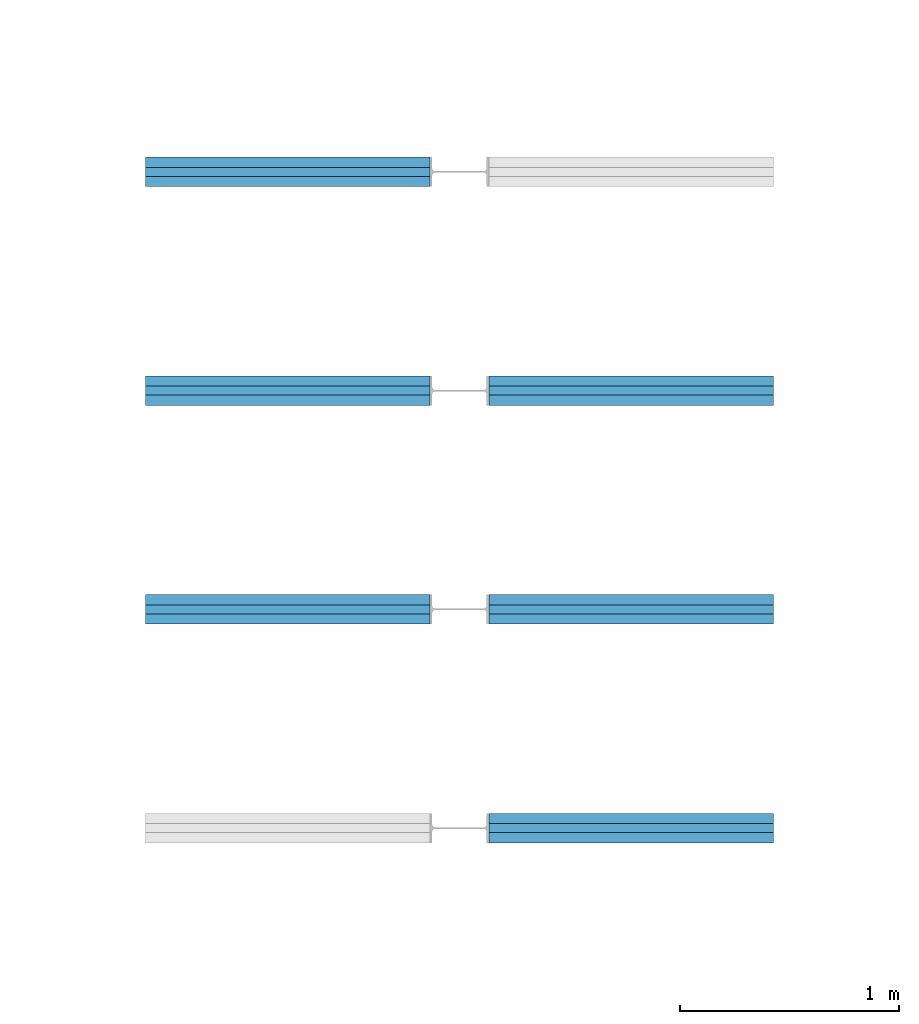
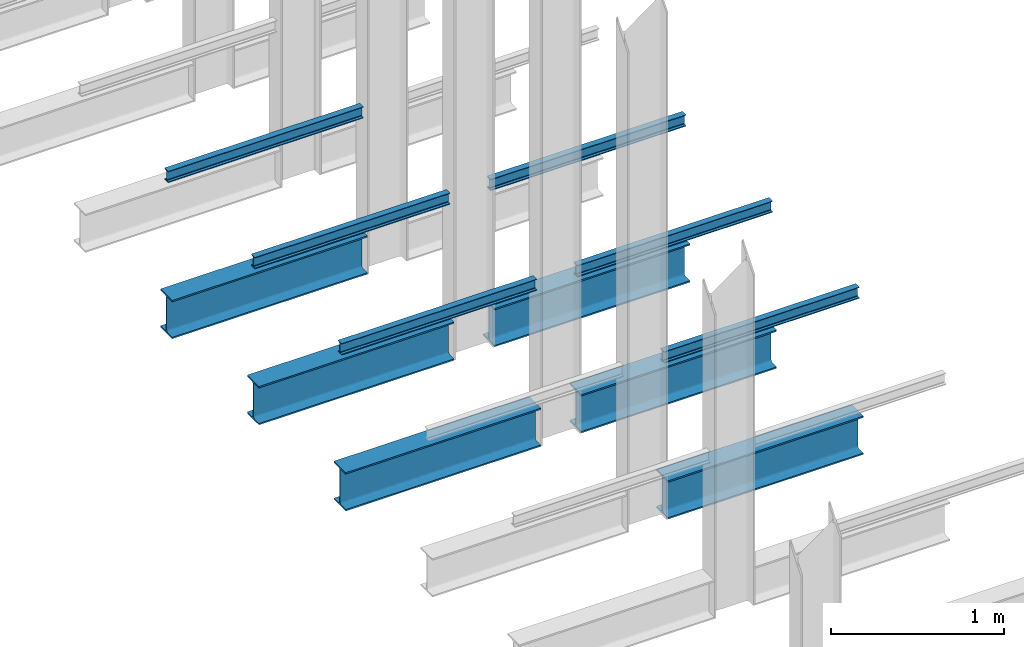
# One storey, part 162 of 302: 12 beams.
"""IFC2X3 building model written with IfcOpenShell, lengths in metres."""

import ifcopenshell
import ifcopenshell.guid

model = None  # the IFC model being written
_history = None  # IfcOwnerHistory: only IFC2X3 demands one
_inside = {}  # id of a spatial element -> (the spatial element, [elements in it])
_under = {}  # id of a project, library or spatial element -> (it, [spatial elements below it])
_declared = {}  # id of a project -> (the project, [libraries it declares])
_typed = {}  # id of a type object -> (the type object, [elements of that type])
_made_of = {}  # id of a material, layer set ... -> (it, [elements and type objects made of it])


def new_model(schema):
    """Start an empty IFC model of exactly this schema.

    Asked for "IFC4X3", IfcOpenShell would pick the latest addendum, in which some entities
    have other attributes; the version numbers below select the first issue.
    IFC2X3 requires an IfcOwnerHistory on every rooted entity: one is made here for all.
    """
    global model, _history
    if schema == "IFC4X3":
        model = ifcopenshell.file(schema_version=(4, 3, 0, 0))
    else:
        model = ifcopenshell.file(schema=schema)
    _inside.clear()
    _under.clear()
    _declared.clear()
    _typed.clear()
    _made_of.clear()
    _history = None
    if model.schema == "IFC2X3":
        org = make("IfcOrganization", Name="unknown")
        user = make(
            "IfcPersonAndOrganization",
            ThePerson=make("IfcPerson", FamilyName="unknown"),
            TheOrganization=org,
        )
        app = make(
            "IfcApplication",
            ApplicationDeveloper=org,
            Version="unknown",
            ApplicationFullName="unknown",
            ApplicationIdentifier="unknown",
        )
        _history = make(
            "IfcOwnerHistory",
            OwningUser=user,
            OwningApplication=app,
            ChangeAction="ADDED",
            CreationDate=0,
        )
    return model


def make(cls, **values):
    """One entity of the class cls with the attributes given. An attribute that is None is left unset."""
    return model.create_entity(
        cls, **{name: value for name, value in values.items() if value is not None}
    )


def entity(cls, *values):
    """Any entity or typed value of the class cls, its attributes in the order of the schema. None: left unset."""
    e = model.create_entity(cls)
    for i, value in enumerate(values):
        if value is not None:
            e[i] = value
    return e


def rooted(cls, **values):
    """An entity with a GlobalId (a new one), such as an element, a storey or a relation."""
    return make(cls, GlobalId=ifcopenshell.guid.new(), OwnerHistory=_history, **values)


def si_unit(unit_type, name, prefix=None):
    """IfcSIUnit, for example si_unit("LENGTHUNIT", "METRE", prefix="MILLI")."""
    return make("IfcSIUnit", UnitType=unit_type, Prefix=prefix, Name=name)


def converted_unit(unit_type, name, factor, base, dimensions=None, offset=None):
    """IfcConversionBasedUnit, such as the inch: factor (a typed value) times the base unit."""
    return make(
        "IfcConversionBasedUnit"
        if offset is None
        else "IfcConversionBasedUnitWithOffset",
        ConversionOffset=offset,
        Dimensions=None
        if dimensions is None
        else entity("IfcDimensionalExponents", *dimensions),
        UnitType=unit_type,
        Name=name,
        ConversionFactor=make(
            "IfcMeasureWithUnit", ValueComponent=factor, UnitComponent=base
        ),
    )


def derived_unit(unit_type, elements):
    """IfcDerivedUnit: a product of units, each with its exponent."""
    return make(
        "IfcDerivedUnit",
        Elements=[
            make("IfcDerivedUnitElement", Unit=unit, Exponent=power)
            for unit, power in elements
        ],
        UnitType=unit_type,
    )


def assignment(units):
    """IfcUnitAssignment: the units of a project."""
    return None if units is None else make("IfcUnitAssignment", Units=units)


def point(xyz):
    """IfcCartesianPoint."""
    return None if xyz is None else make("IfcCartesianPoint", Coordinates=xyz)


def direction(xyz):
    """IfcDirection."""
    return None if xyz is None else make("IfcDirection", DirectionRatios=xyz)


def frame(location, z_axis=None, x_axis=None):
    """IfcAxis2Placement3D, a coordinate frame: its origin and axes. An axis left out is left unset."""
    return make(
        "IfcAxis2Placement3D",
        Location=point(location),
        Axis=direction(z_axis),
        RefDirection=direction(x_axis),
    )


def frame_2d(location, x_axis=None):
    """IfcAxis2Placement2D, a coordinate frame in the plane: its origin and x axis."""
    return make(
        "IfcAxis2Placement2D", Location=point(location), RefDirection=direction(x_axis)
    )


def origin():
    """The frame at (0, 0, 0) with its axes left unset."""
    return frame((0.0, 0.0, 0.0))


def place(relative_to, where):
    """IfcLocalPlacement: puts the frame where relative to a parent placement (None: the world)."""
    return make(
        "IfcLocalPlacement", PlacementRelTo=relative_to, RelativePlacement=where
    )


def context(
    kind, dimensions, precision=None, world=None, true_north=None, identifier=None
):
    """IfcGeometricRepresentationContext, for example the 3D "Model" context."""
    return make(
        "IfcGeometricRepresentationContext",
        ContextIdentifier=identifier,
        ContextType=kind,
        CoordinateSpaceDimension=dimensions,
        Precision=precision,
        WorldCoordinateSystem=world,
        TrueNorth=true_north,
    )


def subcontext(parent, identifier, kind, view, scale=None):
    """IfcGeometricRepresentationSubContext, for example "Body" below "Model"."""
    return make(
        "IfcGeometricRepresentationSubContext",
        ContextIdentifier=identifier,
        ContextType=kind,
        ParentContext=parent,
        TargetScale=scale,
        TargetView=view,
    )


def project(units=None, contexts=None):
    """IfcProject with its units and contexts."""
    return rooted(
        "IfcProject",
        Name="project",
        RepresentationContexts=contexts,
        UnitsInContext=assignment(units),
    )


def spatial(cls, under=None, at=None, **own):
    """A site, building, storey or space (cls), placed at a placement, below another one or the project."""
    s = rooted(cls, ObjectPlacement=at, **own)
    if under is not None:
        _under.setdefault(under.id(), (under, []))[1].append(s)
    return s


def polyline(points):
    """IfcPolyline through the points."""
    return make("IfcPolyline", Points=[point(p) for p in points])


def circle_curve(where, radius):
    """IfcCircle in the frame where."""
    return make("IfcCircle", Position=where, Radius=radius)


def parameter(value):
    """IfcParameterValue: where a trimmed curve begins or ends, as a parameter of its basis curve."""
    return model.create_entity("IfcParameterValue", value)


def trimmed(basis, trim1, trim2, sense, master):
    """IfcTrimmedCurve: the piece of a basis curve between two trims."""
    return make(
        "IfcTrimmedCurve",
        BasisCurve=basis,
        Trim1=trim1,
        Trim2=trim2,
        SenseAgreement=sense,
        MasterRepresentation=master,
    )


def segment(curve, same_sense, transition):
    """IfcCompositeCurveSegment."""
    return make(
        "IfcCompositeCurveSegment",
        Transition=transition,
        SameSense=same_sense,
        ParentCurve=curve,
    )


def composite_curve(segments, self_intersect=None):
    """IfcCompositeCurve: segments joined end to end."""
    return make("IfcCompositeCurve", Segments=segments, SelfIntersect=self_intersect)


def profile(cls, at=None, kind="AREA", **sizes):
    """A parametric profile (cls). Its sizes go by their IFC names, for example OverallWidth=200.0."""
    return make(cls, ProfileType=kind, Position=at, **sizes)


def i_section(**sizes):
    """IfcIShapeProfileDef."""
    return profile("IfcIShapeProfileDef", **sizes)


def outline(outer, holes=None, kind="AREA"):
    """IfcArbitraryClosedProfileDef: a profile drawn as a closed curve; with holes, ...WithVoids."""
    if holes is None:
        return make("IfcArbitraryClosedProfileDef", ProfileType=kind, OuterCurve=outer)
    return make(
        "IfcArbitraryProfileDefWithVoids",
        ProfileType=kind,
        OuterCurve=outer,
        InnerCurves=holes,
    )


def extrude(swept, where, along, depth):
    """IfcExtrudedAreaSolid: the profile swept, set in the frame where, extruded along a direction by depth."""
    return make(
        "IfcExtrudedAreaSolid",
        SweptArea=swept,
        Position=where,
        ExtrudedDirection=direction(along),
        Depth=depth,
    )


def shape(context_of_items, identifier, shape_type, items):
    """IfcShapeRepresentation: the items that make up one representation, for example the "Body"."""
    return make(
        "IfcShapeRepresentation",
        ContextOfItems=context_of_items,
        RepresentationIdentifier=identifier,
        RepresentationType=shape_type,
        Items=items,
    )


def material(Name=None, Category=None):
    """IfcMaterial."""
    return make("IfcMaterial", Name=Name, Category=Category)


def made_of(thing, what):
    """Note that an element or type object is made of a material, layer set ...; save() writes the relation."""
    if what is not None:
        _made_of.setdefault(what.id(), (what, []))[1].append(thing)
    return thing


def type_object(cls, material=None, **own):
    """A type object (cls), such as IfcWallType, which elements share."""
    return made_of(rooted(cls, **own), material)


def element(
    cls,
    number,
    at=None,
    inside=None,
    cuts=None,
    type_object=None,
    material=None,
    context=None,
    identifier="Body",
    shape_type=None,
    held_by="IfcProductDefinitionShape",
    body=None,
    shapes=None,
    **own,
):
    """One element of the class cls, such as IfcWall. Its Tag is "e" and its number.

    at: its placement. inside: the storey or other place that contains it. cuts: it is an
    opening in that element (IfcRelVoidsElement). A single representation is given by context,
    identifier, shape_type and body (its items); several are given by shapes. held_by: the class
    of the entity that holds the representations. save() writes the other relations.
    """
    e = rooted(cls, Tag="e%d" % number, ObjectPlacement=at, **own)
    if body is not None:
        shapes = [shape(context, identifier, shape_type, body)]
    if shapes is not None:
        e.Representation = make(held_by, Representations=shapes)
    if inside is not None:
        _inside.setdefault(inside.id(), (inside, []))[1].append(e)
    if cuts is not None:
        rooted(
            "IfcRelVoidsElement", RelatingBuildingElement=cuts, RelatedOpeningElement=e
        )
    if type_object is not None:
        _typed.setdefault(type_object.id(), (type_object, []))[1].append(e)
    return made_of(e, material)


def aggregate(whole, parts):
    """IfcRelAggregates: a whole, such as a stair, and the parts it consists of."""
    return rooted("IfcRelAggregates", RelatingObject=whole, RelatedObjects=parts)


def save(model, path):
    """Write the relations noted so far, then the file.

    IfcRelAggregates (storeys below a building ...), IfcRelContainedInSpatialStructure (elements
    in a storey), IfcRelDefinesByType, IfcRelAssociatesMaterial and IfcRelDeclares: one each for
    every whole, place, type object, material and project.
    """
    for whole, parts in _under.values():
        aggregate(whole, parts)
    for where, things in _inside.values():
        rooted(
            "IfcRelContainedInSpatialStructure",
            RelatedElements=things,
            RelatingStructure=where,
        )
    for kind, things in _typed.values():
        rooted("IfcRelDefinesByType", RelatedObjects=things, RelatingType=kind)
    for what, things in _made_of.values():
        rooted("IfcRelAssociatesMaterial", RelatedObjects=things, RelatingMaterial=what)
    for by, libraries in _declared.values():
        rooted("IfcRelDeclares", RelatingContext=by, RelatedDefinitions=libraries)
    model.write(path)


model = new_model("IFC2X3")

# Units and contexts
model_context = context("Model", 3, precision=1e-05, world=origin(), true_north=direction((6.12303176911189e-17, 1.0)))
body_context = subcontext(model_context, "Body", "Model", "MODEL_VIEW")
ifc_project = project(units=[si_unit("LENGTHUNIT", "METRE"), si_unit("AREAUNIT", "SQUARE_METRE"), si_unit("VOLUMEUNIT", "CUBIC_METRE"), converted_unit("PLANEANGLEUNIT", "DEGREE", entity("IfcRatioMeasure", 0.0174532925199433), si_unit("PLANEANGLEUNIT", "RADIAN"), dimensions=[0, 0, 0, 0, 0, 0, 0]), si_unit("MASSUNIT", "GRAM", prefix="KILO"), derived_unit("MASSDENSITYUNIT", [(si_unit("MASSUNIT", "GRAM", prefix="KILO"), 1), (si_unit("LENGTHUNIT", "METRE"), -3)]), derived_unit("MOMENTOFINERTIAUNIT", [(si_unit("LENGTHUNIT", "METRE"), 4)]), si_unit("TIMEUNIT", "SECOND"), si_unit("FREQUENCYUNIT", "HERTZ"), si_unit("THERMODYNAMICTEMPERATUREUNIT", "DEGREE_CELSIUS"), derived_unit("THERMALTRANSMITTANCEUNIT", [(si_unit("MASSUNIT", "GRAM", prefix="KILO"), 1), (si_unit("THERMODYNAMICTEMPERATUREUNIT", "KELVIN"), -1), (si_unit("TIMEUNIT", "SECOND"), -3)]), derived_unit("VOLUMETRICFLOWRATEUNIT", [(si_unit("LENGTHUNIT", "METRE"), 3), (si_unit("TIMEUNIT", "SECOND"), -1)]), si_unit("ELECTRICCURRENTUNIT", "AMPERE"), si_unit("ELECTRICVOLTAGEUNIT", "VOLT"), si_unit("POWERUNIT", "WATT"), si_unit("FORCEUNIT", "NEWTON", prefix="KILO"), si_unit("ILLUMINANCEUNIT", "LUX"), si_unit("LUMINOUSFLUXUNIT", "LUMEN"), si_unit("LUMINOUSINTENSITYUNIT", "CANDELA"), derived_unit("USERDEFINED", [(si_unit("MASSUNIT", "GRAM", prefix="KILO"), -1), (si_unit("LENGTHUNIT", "METRE"), -2), (si_unit("TIMEUNIT", "SECOND"), 3), (si_unit("LUMINOUSFLUXUNIT", "LUMEN"), 1)]), derived_unit("LINEARVELOCITYUNIT", [(si_unit("LENGTHUNIT", "METRE"), 1), (si_unit("TIMEUNIT", "SECOND"), -1)]), si_unit("PRESSUREUNIT", "PASCAL"), derived_unit("USERDEFINED", [(si_unit("LENGTHUNIT", "METRE"), -2), (si_unit("MASSUNIT", "GRAM", prefix="KILO"), 1), (si_unit("TIMEUNIT", "SECOND"), -2)]), derived_unit("LINEARFORCEUNIT", [(si_unit("MASSUNIT", "GRAM", prefix="KILO"), 1), (si_unit("LENGTHUNIT", "METRE"), 1), (si_unit("TIMEUNIT", "SECOND"), -2), (si_unit("LENGTHUNIT", "METRE"), -1)]), derived_unit("PLANARFORCEUNIT", [(si_unit("MASSUNIT", "GRAM", prefix="KILO"), 1), (si_unit("LENGTHUNIT", "METRE"), 1), (si_unit("TIMEUNIT", "SECOND"), -2), (si_unit("LENGTHUNIT", "METRE"), -2)])], contexts=[model_context])

# Site, building, storey
site_placement = place(None, origin())
site = spatial("IfcSite", under=ifc_project, at=site_placement, Name="Default", CompositionType="ELEMENT")
building_placement = place(site_placement, origin())
building = spatial("IfcBuilding", under=site, at=building_placement, CompositionType="ELEMENT")
storey_placement = place(building_placement, frame((0.0, 0.0, -1.3)))
storey = spatial("IfcBuildingStorey", under=building, at=storey_placement, Name="00_EG", CompositionType="ELEMENT", Elevation=-1.3)

# Beams
ifc_material = material(Name="Metall - Baustahl S235")
beam_type_1 = type_object("IfcBeamType", Name="IPN Träger:IPN 80", PredefinedType="NOTDEFINED")
beam_1_placement = place(storey_placement, frame((-164.910111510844, 31.036588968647, 2.42), z_axis=(0.0, 0.0, 1.0), x_axis=(-1.0, 0.0, 0.0)))
element("IfcBeam", 1, at=beam_1_placement, inside=storey, type_object=beam_type_1, material=ifc_material, Name="IPN Träger:IPN 80", ObjectType="IPN Träger:IPN 80", context=body_context, shape_type="SweptSolid", body=[
    extrude(outline(composite_curve([segment(polyline([(0.0375704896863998, -0.0209999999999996), (0.0399999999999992, -0.0209999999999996)]), True, "CONTINUOUS"), segment(polyline([(0.0399999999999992, -0.0209999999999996), (0.0399999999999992, 0.0209999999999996)]), True, "CONTINUOUS"), segment(polyline([(0.039999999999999, 0.0209999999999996), (0.037570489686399, 0.0209999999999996)]), True, "CONTINUOUS"), segment(trimmed(circle_curve(frame_2d((0.037570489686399, 0.0187000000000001), x_axis=(0.0, 1.0)), 0.00230000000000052), [parameter(0.0)], [parameter(82.0299999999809)], True, "PARAMETER"), True, "CONTINUOUS"), segment(polyline([(0.0352927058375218, 0.0190189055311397), (0.0333732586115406, 0.00530924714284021)]), True, "CONTINUOUS"), segment(trimmed(circle_curve(frame_2d((0.0295109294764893, 0.00584999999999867), x_axis=(0.990340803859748, -0.138654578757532)), 0.00389999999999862), [parameter(277.969999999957)], [parameter(0.0)], True, "PARAMETER"), False, "CONTINUOUS"), segment(polyline([(0.0295109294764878, 0.00194999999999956), (-0.0295109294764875, 0.00194999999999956)]), True, "CONTINUOUS"), segment(trimmed(circle_curve(frame_2d((-0.029510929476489, 0.00584999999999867), x_axis=(0.0, -1.0)), 0.00389999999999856), [parameter(277.969999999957)], [parameter(0.0)], True, "PARAMETER"), False, "CONTINUOUS"), segment(polyline([(-0.0333732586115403, 0.00530924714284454), (-0.0352927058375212, 0.019018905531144)]), True, "CONTINUOUS"), segment(trimmed(circle_curve(frame_2d((-0.0375704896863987, 0.0187000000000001), x_axis=(0.990340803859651, 0.138654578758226)), 0.00230000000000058), [parameter(0.0)], [parameter(82.029999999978)], True, "PARAMETER"), True, "CONTINUOUS"), segment(polyline([(-0.0375704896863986, 0.0209999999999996), (-0.0400000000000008, 0.0209999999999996)]), True, "CONTINUOUS"), segment(polyline([(-0.0400000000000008, 0.0209999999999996), (-0.0400000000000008, -0.0209999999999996)]), True, "CONTINUOUS"), segment(polyline([(-0.0400000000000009, -0.0209999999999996), (-0.037570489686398, -0.0209999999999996)]), True, "CONTINUOUS"), segment(trimmed(circle_curve(frame_2d((-0.0375704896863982, -0.0187000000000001), x_axis=(0.0, -1.0)), 0.00230000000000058), [parameter(0.0)], [parameter(82.029999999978)], True, "PARAMETER"), True, "CONTINUOUS"), segment(polyline([(-0.0352927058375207, -0.0190189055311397), (-0.0333732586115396, -0.00530924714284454)]), True, "CONTINUOUS"), segment(trimmed(circle_curve(frame_2d((-0.0295109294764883, -0.00584999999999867), x_axis=(-0.990340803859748, 0.138654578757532)), 0.00389999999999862), [parameter(277.969999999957)], [parameter(0.0)], True, "PARAMETER"), False, "CONTINUOUS"), segment(polyline([(-0.0295109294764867, -0.00194999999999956), (0.0295109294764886, -0.00194999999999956)]), True, "CONTINUOUS"), segment(trimmed(circle_curve(frame_2d((0.0295109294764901, -0.00584999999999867), x_axis=(0.0, 1.0)), 0.00389999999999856), [parameter(277.969999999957)], [parameter(0.0)], True, "PARAMETER"), False, "CONTINUOUS"), segment(polyline([(0.0333732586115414, -0.00530924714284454), (0.0352927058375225, -0.019018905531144)]), True, "CONTINUOUS"), segment(trimmed(circle_curve(frame_2d((0.0375704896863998, -0.0187000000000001), x_axis=(-0.990340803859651, -0.138654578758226)), 0.00230000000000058), [parameter(0.0)], [parameter(82.029999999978)], True, "PARAMETER"), True, "CONTINUOUS")], self_intersect=False)), frame((0.000100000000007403, 0.0209999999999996, -0.0400000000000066), z_axis=(1.0, 0.0, 0.0), x_axis=(0.0, 0.0, -1.0)), (0.0, 0.0, 1.0), 1.29990000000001),
])
beam_2_placement = place(storey_placement, frame((-164.640111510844, 29.994588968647, 2.42)))
element("IfcBeam", 2, at=beam_2_placement, inside=storey, type_object=beam_type_1, material=ifc_material, Name="IPN Träger:IPN 80", ObjectType="IPN Träger:IPN 80", context=body_context, shape_type="SweptSolid", body=[
    extrude(outline(composite_curve([segment(polyline([(0.0375704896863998, -0.0209999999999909), (0.0399999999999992, -0.0209999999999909)]), True, "CONTINUOUS"), segment(polyline([(0.0399999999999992, -0.0209999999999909), (0.0399999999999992, 0.0210000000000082)]), True, "CONTINUOUS"), segment(polyline([(0.039999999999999, 0.0210000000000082), (0.037570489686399, 0.0210000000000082)]), True, "CONTINUOUS"), segment(trimmed(circle_curve(frame_2d((0.037570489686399, 0.0187000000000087), x_axis=(0.0, 1.0)), 0.00230000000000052), [parameter(0.0)], [parameter(82.0299999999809)], True, "PARAMETER"), True, "CONTINUOUS"), segment(polyline([(0.0352927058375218, 0.0190189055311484), (0.0333732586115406, 0.00530924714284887)]), True, "CONTINUOUS"), segment(trimmed(circle_curve(frame_2d((0.0295109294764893, 0.00585000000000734), x_axis=(0.990340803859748, -0.138654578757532)), 0.00389999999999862), [parameter(277.969999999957)], [parameter(0.0)], True, "PARAMETER"), False, "CONTINUOUS"), segment(polyline([(0.0295109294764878, 0.00195000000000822), (-0.0295109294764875, 0.00195000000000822)]), True, "CONTINUOUS"), segment(trimmed(circle_curve(frame_2d((-0.029510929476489, 0.00585000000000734), x_axis=(0.0, -1.0)), 0.00389999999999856), [parameter(277.969999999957)], [parameter(0.0)], True, "PARAMETER"), False, "CONTINUOUS"), segment(polyline([(-0.0333732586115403, 0.0053092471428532), (-0.0352927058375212, 0.0190189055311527)]), True, "CONTINUOUS"), segment(trimmed(circle_curve(frame_2d((-0.0375704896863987, 0.0187000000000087), x_axis=(0.990340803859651, 0.138654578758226)), 0.00230000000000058), [parameter(0.0)], [parameter(82.029999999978)], True, "PARAMETER"), True, "CONTINUOUS"), segment(polyline([(-0.0375704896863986, 0.0210000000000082), (-0.0400000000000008, 0.0210000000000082)]), True, "CONTINUOUS"), segment(polyline([(-0.0400000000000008, 0.0210000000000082), (-0.0400000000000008, -0.0209999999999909)]), True, "CONTINUOUS"), segment(polyline([(-0.0400000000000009, -0.0209999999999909), (-0.037570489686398, -0.0209999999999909)]), True, "CONTINUOUS"), segment(trimmed(circle_curve(frame_2d((-0.0375704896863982, -0.0186999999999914), x_axis=(0.0, -1.0)), 0.00230000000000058), [parameter(0.0)], [parameter(82.029999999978)], True, "PARAMETER"), True, "CONTINUOUS"), segment(polyline([(-0.0352927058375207, -0.019018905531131), (-0.0333732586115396, -0.00530924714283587)]), True, "CONTINUOUS"), segment(trimmed(circle_curve(frame_2d((-0.0295109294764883, -0.00584999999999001), x_axis=(-0.990340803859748, 0.138654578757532)), 0.00389999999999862), [parameter(277.969999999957)], [parameter(0.0)], True, "PARAMETER"), False, "CONTINUOUS"), segment(polyline([(-0.0295109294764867, -0.00194999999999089), (0.0295109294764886, -0.00194999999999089)]), True, "CONTINUOUS"), segment(trimmed(circle_curve(frame_2d((0.0295109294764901, -0.00584999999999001), x_axis=(0.0, 1.0)), 0.00389999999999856), [parameter(277.969999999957)], [parameter(0.0)], True, "PARAMETER"), False, "CONTINUOUS"), segment(polyline([(0.0333732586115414, -0.00530924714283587), (0.0352927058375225, -0.0190189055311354)]), True, "CONTINUOUS"), segment(trimmed(circle_curve(frame_2d((0.0375704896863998, -0.0186999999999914), x_axis=(-0.990340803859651, -0.138654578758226)), 0.00230000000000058), [parameter(0.0)], [parameter(82.029999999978)], True, "PARAMETER"), True, "CONTINUOUS")], self_intersect=False)), frame((9.99999999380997e-05, 0.0209999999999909, -0.0400000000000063), z_axis=(1.0, 0.0, 0.0), x_axis=(0.0, 0.0, -1.0)), (0.0, 0.0, 1.0), 1.29990000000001),
])
beam_3_placement = place(storey_placement, frame((-164.910111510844, 30.036588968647, 2.42), z_axis=(0.0, 0.0, 1.0), x_axis=(-1.0, 0.0, 0.0)))
element("IfcBeam", 3, at=beam_3_placement, inside=storey, type_object=beam_type_1, material=ifc_material, Name="IPN Träger:IPN 80", ObjectType="IPN Träger:IPN 80", context=body_context, shape_type="SweptSolid", body=[
    extrude(outline(composite_curve([segment(polyline([(0.0375704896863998, -0.0209999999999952), (0.0399999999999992, -0.0209999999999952)]), True, "CONTINUOUS"), segment(polyline([(0.0399999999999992, -0.0209999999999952), (0.0399999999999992, 0.0210000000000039)]), True, "CONTINUOUS"), segment(polyline([(0.039999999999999, 0.0210000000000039), (0.037570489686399, 0.0210000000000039)]), True, "CONTINUOUS"), segment(trimmed(circle_curve(frame_2d((0.037570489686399, 0.0187000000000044), x_axis=(0.0, 1.0)), 0.00230000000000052), [parameter(0.0)], [parameter(82.0299999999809)], True, "PARAMETER"), True, "CONTINUOUS"), segment(polyline([(0.0352927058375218, 0.019018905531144), (0.0333732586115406, 0.00530924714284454)]), True, "CONTINUOUS"), segment(trimmed(circle_curve(frame_2d((0.0295109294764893, 0.005850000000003), x_axis=(0.990340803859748, -0.138654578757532)), 0.00389999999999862), [parameter(277.969999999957)], [parameter(0.0)], True, "PARAMETER"), False, "CONTINUOUS"), segment(polyline([(0.0295109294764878, 0.00195000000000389), (-0.0295109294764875, 0.00195000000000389)]), True, "CONTINUOUS"), segment(trimmed(circle_curve(frame_2d((-0.029510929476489, 0.005850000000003), x_axis=(0.0, -1.0)), 0.00389999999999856), [parameter(277.969999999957)], [parameter(0.0)], True, "PARAMETER"), False, "CONTINUOUS"), segment(polyline([(-0.0333732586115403, 0.00530924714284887), (-0.0352927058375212, 0.0190189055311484)]), True, "CONTINUOUS"), segment(trimmed(circle_curve(frame_2d((-0.0375704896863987, 0.0187000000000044), x_axis=(0.990340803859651, 0.138654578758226)), 0.00230000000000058), [parameter(0.0)], [parameter(82.029999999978)], True, "PARAMETER"), True, "CONTINUOUS"), segment(polyline([(-0.0375704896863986, 0.0210000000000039), (-0.0400000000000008, 0.0210000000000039)]), True, "CONTINUOUS"), segment(polyline([(-0.0400000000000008, 0.0210000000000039), (-0.0400000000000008, -0.0209999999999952)]), True, "CONTINUOUS"), segment(polyline([(-0.0400000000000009, -0.0209999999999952), (-0.037570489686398, -0.0209999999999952)]), True, "CONTINUOUS"), segment(trimmed(circle_curve(frame_2d((-0.0375704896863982, -0.0186999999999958), x_axis=(0.0, -1.0)), 0.00230000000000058), [parameter(0.0)], [parameter(82.029999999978)], True, "PARAMETER"), True, "CONTINUOUS"), segment(polyline([(-0.0352927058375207, -0.0190189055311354), (-0.0333732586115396, -0.00530924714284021)]), True, "CONTINUOUS"), segment(trimmed(circle_curve(frame_2d((-0.0295109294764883, -0.00584999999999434), x_axis=(-0.990340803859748, 0.138654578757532)), 0.00389999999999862), [parameter(277.969999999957)], [parameter(0.0)], True, "PARAMETER"), False, "CONTINUOUS"), segment(polyline([(-0.0295109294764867, -0.00194999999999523), (0.0295109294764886, -0.00194999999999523)]), True, "CONTINUOUS"), segment(trimmed(circle_curve(frame_2d((0.0295109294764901, -0.00584999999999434), x_axis=(0.0, 1.0)), 0.00389999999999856), [parameter(277.969999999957)], [parameter(0.0)], True, "PARAMETER"), False, "CONTINUOUS"), segment(polyline([(0.0333732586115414, -0.00530924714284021), (0.0352927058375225, -0.0190189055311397)]), True, "CONTINUOUS"), segment(trimmed(circle_curve(frame_2d((0.0375704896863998, -0.0186999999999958), x_axis=(-0.990340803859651, -0.138654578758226)), 0.00230000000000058), [parameter(0.0)], [parameter(82.029999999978)], True, "PARAMETER"), True, "CONTINUOUS")], self_intersect=False)), frame((0.000100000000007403, 0.0209999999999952, -0.0400000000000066), z_axis=(1.0, 0.0, 0.0), x_axis=(0.0, 0.0, -1.0)), (0.0, 0.0, 1.0), 1.29990000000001),
])
beam_4_placement = place(storey_placement, frame((-164.640111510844, 28.994588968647, 2.42)))
element("IfcBeam", 4, at=beam_4_placement, inside=storey, type_object=beam_type_1, material=ifc_material, Name="IPN Träger:IPN 80", ObjectType="IPN Träger:IPN 80", context=body_context, shape_type="SweptSolid", body=[
    extrude(outline(composite_curve([segment(polyline([(0.0375704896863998, -0.0209999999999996), (0.0399999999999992, -0.0209999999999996)]), True, "CONTINUOUS"), segment(polyline([(0.0399999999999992, -0.0209999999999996), (0.0399999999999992, 0.0209999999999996)]), True, "CONTINUOUS"), segment(polyline([(0.039999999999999, 0.0209999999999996), (0.037570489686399, 0.0209999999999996)]), True, "CONTINUOUS"), segment(trimmed(circle_curve(frame_2d((0.037570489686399, 0.0187000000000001), x_axis=(0.0, 1.0)), 0.00230000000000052), [parameter(0.0)], [parameter(82.0299999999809)], True, "PARAMETER"), True, "CONTINUOUS"), segment(polyline([(0.0352927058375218, 0.0190189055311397), (0.0333732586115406, 0.00530924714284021)]), True, "CONTINUOUS"), segment(trimmed(circle_curve(frame_2d((0.0295109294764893, 0.00584999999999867), x_axis=(0.990340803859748, -0.138654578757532)), 0.00389999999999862), [parameter(277.969999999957)], [parameter(0.0)], True, "PARAMETER"), False, "CONTINUOUS"), segment(polyline([(0.0295109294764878, 0.00194999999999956), (-0.0295109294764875, 0.00194999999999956)]), True, "CONTINUOUS"), segment(trimmed(circle_curve(frame_2d((-0.029510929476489, 0.00584999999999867), x_axis=(0.0, -1.0)), 0.00389999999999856), [parameter(277.969999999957)], [parameter(0.0)], True, "PARAMETER"), False, "CONTINUOUS"), segment(polyline([(-0.0333732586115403, 0.00530924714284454), (-0.0352927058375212, 0.019018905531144)]), True, "CONTINUOUS"), segment(trimmed(circle_curve(frame_2d((-0.0375704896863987, 0.0187000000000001), x_axis=(0.990340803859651, 0.138654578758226)), 0.00230000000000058), [parameter(0.0)], [parameter(82.029999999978)], True, "PARAMETER"), True, "CONTINUOUS"), segment(polyline([(-0.0375704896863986, 0.0209999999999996), (-0.0400000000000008, 0.0209999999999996)]), True, "CONTINUOUS"), segment(polyline([(-0.0400000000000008, 0.0209999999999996), (-0.0400000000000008, -0.0209999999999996)]), True, "CONTINUOUS"), segment(polyline([(-0.0400000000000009, -0.0209999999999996), (-0.037570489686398, -0.0209999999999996)]), True, "CONTINUOUS"), segment(trimmed(circle_curve(frame_2d((-0.0375704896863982, -0.0187000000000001), x_axis=(0.0, -1.0)), 0.00230000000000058), [parameter(0.0)], [parameter(82.029999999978)], True, "PARAMETER"), True, "CONTINUOUS"), segment(polyline([(-0.0352927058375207, -0.0190189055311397), (-0.0333732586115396, -0.00530924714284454)]), True, "CONTINUOUS"), segment(trimmed(circle_curve(frame_2d((-0.0295109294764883, -0.00584999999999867), x_axis=(-0.990340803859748, 0.138654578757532)), 0.00389999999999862), [parameter(277.969999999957)], [parameter(0.0)], True, "PARAMETER"), False, "CONTINUOUS"), segment(polyline([(-0.0295109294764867, -0.00194999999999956), (0.0295109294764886, -0.00194999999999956)]), True, "CONTINUOUS"), segment(trimmed(circle_curve(frame_2d((0.0295109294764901, -0.00584999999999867), x_axis=(0.0, 1.0)), 0.00389999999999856), [parameter(277.969999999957)], [parameter(0.0)], True, "PARAMETER"), False, "CONTINUOUS"), segment(polyline([(0.0333732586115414, -0.00530924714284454), (0.0352927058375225, -0.019018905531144)]), True, "CONTINUOUS"), segment(trimmed(circle_curve(frame_2d((0.0375704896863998, -0.0187000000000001), x_axis=(-0.990340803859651, -0.138654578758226)), 0.00230000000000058), [parameter(0.0)], [parameter(82.029999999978)], True, "PARAMETER"), True, "CONTINUOUS")], self_intersect=False)), frame((9.99999999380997e-05, 0.0209999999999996, -0.0400000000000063), z_axis=(1.0, 0.0, 0.0), x_axis=(0.0, 0.0, -1.0)), (0.0, 0.0, 1.0), 1.29990000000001),
])
beam_5_placement = place(storey_placement, frame((-164.910111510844, 29.036588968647, 2.42), z_axis=(0.0, 0.0, 1.0), x_axis=(-1.0, 0.0, 0.0)))
element("IfcBeam", 5, at=beam_5_placement, inside=storey, type_object=beam_type_1, material=ifc_material, Name="IPN Träger:IPN 80", ObjectType="IPN Träger:IPN 80", context=body_context, shape_type="SweptSolid", body=[
    extrude(outline(composite_curve([segment(polyline([(0.0375704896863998, -0.0209999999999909), (0.0399999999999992, -0.0209999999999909)]), True, "CONTINUOUS"), segment(polyline([(0.0399999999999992, -0.0209999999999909), (0.0399999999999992, 0.0210000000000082)]), True, "CONTINUOUS"), segment(polyline([(0.039999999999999, 0.0210000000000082), (0.037570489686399, 0.0210000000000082)]), True, "CONTINUOUS"), segment(trimmed(circle_curve(frame_2d((0.037570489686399, 0.0187000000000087), x_axis=(0.0, 1.0)), 0.00230000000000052), [parameter(0.0)], [parameter(82.0299999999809)], True, "PARAMETER"), True, "CONTINUOUS"), segment(polyline([(0.0352927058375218, 0.0190189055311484), (0.0333732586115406, 0.00530924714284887)]), True, "CONTINUOUS"), segment(trimmed(circle_curve(frame_2d((0.0295109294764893, 0.00585000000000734), x_axis=(0.990340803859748, -0.138654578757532)), 0.00389999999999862), [parameter(277.969999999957)], [parameter(0.0)], True, "PARAMETER"), False, "CONTINUOUS"), segment(polyline([(0.0295109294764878, 0.00195000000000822), (-0.0295109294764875, 0.00195000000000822)]), True, "CONTINUOUS"), segment(trimmed(circle_curve(frame_2d((-0.029510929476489, 0.00585000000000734), x_axis=(0.0, -1.0)), 0.00389999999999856), [parameter(277.969999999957)], [parameter(0.0)], True, "PARAMETER"), False, "CONTINUOUS"), segment(polyline([(-0.0333732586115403, 0.0053092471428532), (-0.0352927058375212, 0.0190189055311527)]), True, "CONTINUOUS"), segment(trimmed(circle_curve(frame_2d((-0.0375704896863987, 0.0187000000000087), x_axis=(0.990340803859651, 0.138654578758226)), 0.00230000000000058), [parameter(0.0)], [parameter(82.029999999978)], True, "PARAMETER"), True, "CONTINUOUS"), segment(polyline([(-0.0375704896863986, 0.0210000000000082), (-0.0400000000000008, 0.0210000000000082)]), True, "CONTINUOUS"), segment(polyline([(-0.0400000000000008, 0.0210000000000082), (-0.0400000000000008, -0.0209999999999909)]), True, "CONTINUOUS"), segment(polyline([(-0.0400000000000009, -0.0209999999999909), (-0.037570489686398, -0.0209999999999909)]), True, "CONTINUOUS"), segment(trimmed(circle_curve(frame_2d((-0.0375704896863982, -0.0186999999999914), x_axis=(0.0, -1.0)), 0.00230000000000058), [parameter(0.0)], [parameter(82.029999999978)], True, "PARAMETER"), True, "CONTINUOUS"), segment(polyline([(-0.0352927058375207, -0.019018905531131), (-0.0333732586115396, -0.00530924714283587)]), True, "CONTINUOUS"), segment(trimmed(circle_curve(frame_2d((-0.0295109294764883, -0.00584999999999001), x_axis=(-0.990340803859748, 0.138654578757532)), 0.00389999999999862), [parameter(277.969999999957)], [parameter(0.0)], True, "PARAMETER"), False, "CONTINUOUS"), segment(polyline([(-0.0295109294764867, -0.00194999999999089), (0.0295109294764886, -0.00194999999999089)]), True, "CONTINUOUS"), segment(trimmed(circle_curve(frame_2d((0.0295109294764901, -0.00584999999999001), x_axis=(0.0, 1.0)), 0.00389999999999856), [parameter(277.969999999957)], [parameter(0.0)], True, "PARAMETER"), False, "CONTINUOUS"), segment(polyline([(0.0333732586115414, -0.00530924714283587), (0.0352927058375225, -0.0190189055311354)]), True, "CONTINUOUS"), segment(trimmed(circle_curve(frame_2d((0.0375704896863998, -0.0186999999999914), x_axis=(-0.990340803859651, -0.138654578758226)), 0.00230000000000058), [parameter(0.0)], [parameter(82.029999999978)], True, "PARAMETER"), True, "CONTINUOUS")], self_intersect=False)), frame((0.000100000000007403, 0.0209999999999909, -0.0400000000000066), z_axis=(1.0, 0.0, 0.0), x_axis=(0.0, 0.0, -1.0)), (0.0, 0.0, 1.0), 1.29990000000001),
])
beam_6_placement = place(storey_placement, frame((-164.640111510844, 27.994588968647, 2.42)))
element("IfcBeam", 6, at=beam_6_placement, inside=storey, type_object=beam_type_1, material=ifc_material, Name="IPN Träger:IPN 80", ObjectType="IPN Träger:IPN 80", context=body_context, shape_type="SweptSolid", body=[
    extrude(outline(composite_curve([segment(polyline([(0.0375704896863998, -0.0210000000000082), (0.0399999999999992, -0.0210000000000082)]), True, "CONTINUOUS"), segment(polyline([(0.0399999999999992, -0.0210000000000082), (0.0399999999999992, 0.0209999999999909)]), True, "CONTINUOUS"), segment(polyline([(0.039999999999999, 0.0209999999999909), (0.037570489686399, 0.0209999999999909)]), True, "CONTINUOUS"), segment(trimmed(circle_curve(frame_2d((0.037570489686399, 0.0186999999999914), x_axis=(0.0, 1.0)), 0.00230000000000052), [parameter(0.0)], [parameter(82.0299999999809)], True, "PARAMETER"), True, "CONTINUOUS"), segment(polyline([(0.0352927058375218, 0.019018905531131), (0.0333732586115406, 0.00530924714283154)]), True, "CONTINUOUS"), segment(trimmed(circle_curve(frame_2d((0.0295109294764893, 0.00584999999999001), x_axis=(0.990340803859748, -0.138654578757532)), 0.00389999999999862), [parameter(277.969999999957)], [parameter(0.0)], True, "PARAMETER"), False, "CONTINUOUS"), segment(polyline([(0.0295109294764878, 0.00194999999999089), (-0.0295109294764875, 0.00194999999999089)]), True, "CONTINUOUS"), segment(trimmed(circle_curve(frame_2d((-0.029510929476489, 0.00584999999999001), x_axis=(0.0, -1.0)), 0.00389999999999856), [parameter(277.969999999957)], [parameter(0.0)], True, "PARAMETER"), False, "CONTINUOUS"), segment(polyline([(-0.0333732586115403, 0.00530924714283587), (-0.0352927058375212, 0.0190189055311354)]), True, "CONTINUOUS"), segment(trimmed(circle_curve(frame_2d((-0.0375704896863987, 0.0186999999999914), x_axis=(0.990340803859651, 0.138654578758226)), 0.00230000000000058), [parameter(0.0)], [parameter(82.029999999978)], True, "PARAMETER"), True, "CONTINUOUS"), segment(polyline([(-0.0375704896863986, 0.0209999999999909), (-0.0400000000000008, 0.0209999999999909)]), True, "CONTINUOUS"), segment(polyline([(-0.0400000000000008, 0.0209999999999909), (-0.0400000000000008, -0.0210000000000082)]), True, "CONTINUOUS"), segment(polyline([(-0.0400000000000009, -0.0210000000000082), (-0.037570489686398, -0.0210000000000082)]), True, "CONTINUOUS"), segment(trimmed(circle_curve(frame_2d((-0.0375704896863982, -0.0187000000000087), x_axis=(0.0, -1.0)), 0.00230000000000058), [parameter(0.0)], [parameter(82.029999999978)], True, "PARAMETER"), True, "CONTINUOUS"), segment(polyline([(-0.0352927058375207, -0.0190189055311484), (-0.0333732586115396, -0.0053092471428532)]), True, "CONTINUOUS"), segment(trimmed(circle_curve(frame_2d((-0.0295109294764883, -0.00585000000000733), x_axis=(-0.990340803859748, 0.138654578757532)), 0.00389999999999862), [parameter(277.969999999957)], [parameter(0.0)], True, "PARAMETER"), False, "CONTINUOUS"), segment(polyline([(-0.0295109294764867, -0.00195000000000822), (0.0295109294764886, -0.00195000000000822)]), True, "CONTINUOUS"), segment(trimmed(circle_curve(frame_2d((0.0295109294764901, -0.00585000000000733), x_axis=(0.0, 1.0)), 0.00389999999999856), [parameter(277.969999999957)], [parameter(0.0)], True, "PARAMETER"), False, "CONTINUOUS"), segment(polyline([(0.0333732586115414, -0.0053092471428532), (0.0352927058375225, -0.0190189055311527)]), True, "CONTINUOUS"), segment(trimmed(circle_curve(frame_2d((0.0375704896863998, -0.0187000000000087), x_axis=(-0.990340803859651, -0.138654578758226)), 0.00230000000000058), [parameter(0.0)], [parameter(82.029999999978)], True, "PARAMETER"), True, "CONTINUOUS")], self_intersect=False)), frame((9.99999999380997e-05, 0.0210000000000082, -0.0400000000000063), z_axis=(1.0, 0.0, 0.0), x_axis=(0.0, 0.0, -1.0)), (0.0, 0.0, 1.0), 1.29990000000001),
])
beam_type_2 = type_object("IfcBeamType", Name="IPE Träger:IPE 270", PredefinedType="NOTDEFINED")
beam_7_placement = place(storey_placement, frame((-164.640111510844, 28.083088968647, 1.54000000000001)))
element("IfcBeam", 7, at=beam_7_placement, inside=storey, type_object=beam_type_2, material=ifc_material, Name="IPE Träger:IPE 270", ObjectType="IPE Träger:IPE 270", context=body_context, shape_type="SweptSolid", body=[
    extrude(i_section(OverallWidth=0.134999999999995, OverallDepth=0.27, WebThickness=0.00660000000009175, FlangeThickness=0.0102000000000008, FilletRadius=0.0150000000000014, at=frame_2d((5.96744875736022e-16, 2.16493489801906e-15), x_axis=(0.0, 1.0))), frame((9.99999999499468e-05, -0.0674999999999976, -0.135000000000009), z_axis=(1.0, 0.0, 0.0), x_axis=(0.0, 0.0, -1.0)), (0.0, 0.0, 1.0), 1.29990000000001),
])
beam_8_placement = place(storey_placement, frame((-164.910111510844, 29.083088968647, 1.54000000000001), z_axis=(0.0, 0.0, 1.0), x_axis=(-1.0, 0.0, 0.0)))
element("IfcBeam", 8, at=beam_8_placement, inside=storey, type_object=beam_type_2, material=ifc_material, Name="IPE Träger:IPE 270", ObjectType="IPE Träger:IPE 270", context=body_context, shape_type="SweptSolid", body=[
    extrude(i_section(OverallWidth=0.134999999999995, OverallDepth=0.27, WebThickness=0.00660000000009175, FlangeThickness=0.0102000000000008, FilletRadius=0.0150000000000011, at=frame_2d((5.96744875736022e-16, -6.49480469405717e-15), x_axis=(0.0, 1.0))), frame((0.000100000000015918, 0.0675000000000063, -0.135000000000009), z_axis=(1.0, 0.0, 0.0), x_axis=(0.0, 0.0, -1.0)), (0.0, 0.0, 1.0), 1.29990000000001),
])
beam_9_placement = place(storey_placement, frame((-164.640111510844, 29.083088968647, 1.54000000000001)))
element("IfcBeam", 9, at=beam_9_placement, inside=storey, type_object=beam_type_2, material=ifc_material, Name="IPE Träger:IPE 270", ObjectType="IPE Träger:IPE 270", context=body_context, shape_type="SweptSolid", body=[
    extrude(i_section(OverallWidth=0.134999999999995, OverallDepth=0.27, WebThickness=0.00660000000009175, FlangeThickness=0.0102000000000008, FilletRadius=0.0150000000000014, at=frame_2d((5.96744875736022e-16, 6.49480469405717e-15), x_axis=(0.0, 1.0))), frame((9.99999999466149e-05, -0.067500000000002, -0.135000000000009), z_axis=(1.0, 0.0, 0.0), x_axis=(0.0, 0.0, -1.0)), (0.0, 0.0, 1.0), 1.29990000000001),
])
beam_10_placement = place(storey_placement, frame((-164.910111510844, 30.083088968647, 1.54000000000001), z_axis=(0.0, 0.0, 1.0), x_axis=(-1.0, 0.0, 0.0)))
element("IfcBeam", 10, at=beam_10_placement, inside=storey, type_object=beam_type_2, material=ifc_material, Name="IPE Träger:IPE 270", ObjectType="IPE Träger:IPE 270", context=body_context, shape_type="SweptSolid", body=[
    extrude(i_section(OverallWidth=0.134999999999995, OverallDepth=0.27, WebThickness=0.00660000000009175, FlangeThickness=0.0102000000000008, FilletRadius=0.0150000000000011, at=frame_2d((5.96744875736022e-16, 2.16493489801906e-15), x_axis=(0.0, 1.0))), frame((0.000100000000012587, 0.0674999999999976, -0.135000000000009), z_axis=(1.0, 0.0, 0.0), x_axis=(0.0, 0.0, -1.0)), (0.0, 0.0, 1.0), 1.29990000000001),
])
beam_11_placement = place(storey_placement, frame((-164.640111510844, 30.083088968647, 1.54000000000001)))
element("IfcBeam", 11, at=beam_11_placement, inside=storey, type_object=beam_type_2, material=ifc_material, Name="IPE Träger:IPE 270", ObjectType="IPE Träger:IPE 270", context=body_context, shape_type="SweptSolid", body=[
    extrude(i_section(OverallWidth=0.134999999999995, OverallDepth=0.27, WebThickness=0.00660000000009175, FlangeThickness=0.0102000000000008, FilletRadius=0.0150000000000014, at=frame_2d((5.96744875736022e-16, 2.16493489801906e-15), x_axis=(0.0, 1.0))), frame((9.99999999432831e-05, -0.0674999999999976, -0.135000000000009), z_axis=(1.0, 0.0, 0.0), x_axis=(0.0, 0.0, -1.0)), (0.0, 0.0, 1.0), 1.29990000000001),
])
beam_12_placement = place(storey_placement, frame((-164.910111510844, 31.083088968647, 1.54000000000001), z_axis=(0.0, 0.0, 1.0), x_axis=(-1.0, 0.0, 0.0)))
element("IfcBeam", 12, at=beam_12_placement, inside=storey, type_object=beam_type_2, material=ifc_material, Name="IPE Träger:IPE 270", ObjectType="IPE Träger:IPE 270", context=body_context, shape_type="SweptSolid", body=[
    extrude(i_section(OverallWidth=0.134999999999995, OverallDepth=0.27, WebThickness=0.00660000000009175, FlangeThickness=0.0102000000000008, FilletRadius=0.0150000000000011, at=frame_2d((5.96744875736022e-16, 2.16493489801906e-15), x_axis=(0.0, 1.0))), frame((0.000100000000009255, 0.0674999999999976, -0.135000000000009), z_axis=(1.0, 0.0, 0.0), x_axis=(0.0, 0.0, -1.0)), (0.0, 0.0, 1.0), 1.29990000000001),
])

save(model, "model.ifc")
